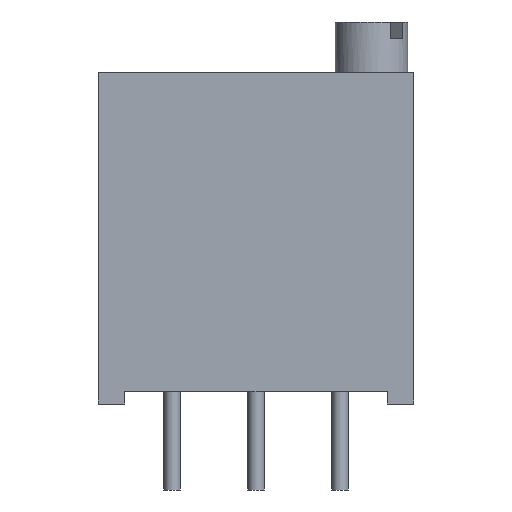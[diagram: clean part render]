
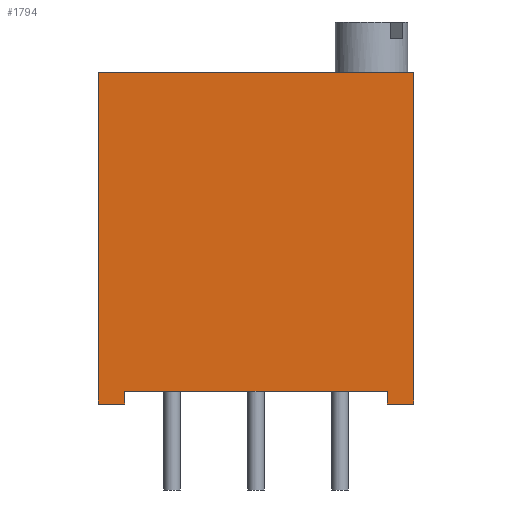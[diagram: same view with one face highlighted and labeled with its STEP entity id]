
A CAD part, front view. The second image highlights one B-rep face of the part: STEP entity #1794.
In plain terms, the highlighted planar face has unit normal (0, -1, 0).
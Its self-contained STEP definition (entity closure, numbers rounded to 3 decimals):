
#541 = PLANE('',#542);
#542 = AXIS2_PLACEMENT_3D('',#543,#544,#545);
#543 = CARTESIAN_POINT('',(-3.965,2.416,0.38));
#544 = DIRECTION('',(0.,0.,1.));
#545 = DIRECTION('',(1.,0.,0.));
#745 = VERTEX_POINT('',#746);
#746 = CARTESIAN_POINT('',(3.965,-2.415,0.38));
#760 = PLANE('',#761);
#761 = AXIS2_PLACEMENT_3D('',#762,#763,#764);
#762 = CARTESIAN_POINT('',(3.965,2.416,-0.62));
#763 = DIRECTION('',(1.,0.,0.));
#764 = DIRECTION('',(0.,0.,-1.));
#772 = EDGE_CURVE('',#745,#773,#775,.T.);
#773 = VERTEX_POINT('',#774);
#774 = CARTESIAN_POINT('',(-3.965,-2.415,0.38));
#775 = SURFACE_CURVE('',#776,(#780,#787),.PCURVE_S1.);
#776 = LINE('',#777,#778);
#777 = CARTESIAN_POINT('',(-3.965,-2.415,0.38));
#778 = VECTOR('',#779,1.);
#779 = DIRECTION('',(-1.,-0.,0.));
#780 = PCURVE('',#541,#781);
#781 = DEFINITIONAL_REPRESENTATION('',(#782),#786);
#782 = LINE('',#783,#784);
#783 = CARTESIAN_POINT('',(0.,-4.831));
#784 = VECTOR('',#785,1.);
#785 = DIRECTION('',(-1.,0.));
#786 = ( GEOMETRIC_REPRESENTATION_CONTEXT(2) 
PARAMETRIC_REPRESENTATION_CONTEXT() REPRESENTATION_CONTEXT('2D SPACE',''
  ) );
#787 = PCURVE('',#788,#793);
#788 = PLANE('',#789);
#789 = AXIS2_PLACEMENT_3D('',#790,#791,#792);
#790 = CARTESIAN_POINT('',(0.,-2.415,0.));
#791 = DIRECTION('',(0.,-1.,0.));
#792 = DIRECTION('',(0.,0.,-1.));
#793 = DEFINITIONAL_REPRESENTATION('',(#794),#798);
#794 = LINE('',#795,#796);
#795 = CARTESIAN_POINT('',(-0.38,-3.965));
#796 = VECTOR('',#797,1.);
#797 = DIRECTION('',(0.,-1.));
#798 = ( GEOMETRIC_REPRESENTATION_CONTEXT(2) 
PARAMETRIC_REPRESENTATION_CONTEXT() REPRESENTATION_CONTEXT('2D SPACE',''
  ) );
#814 = PLANE('',#815);
#815 = AXIS2_PLACEMENT_3D('',#816,#817,#818);
#816 = CARTESIAN_POINT('',(-3.965,2.416,-0.62));
#817 = DIRECTION('',(-1.,0.,0.));
#818 = DIRECTION('',(0.,0.,1.));
#1484 = PLANE('',#1485);
#1485 = AXIS2_PLACEMENT_3D('',#1486,#1487,#1488);
#1486 = CARTESIAN_POINT('',(-4.765,2.415,10.03));
#1487 = DIRECTION('',(1.,0.,0.));
#1488 = DIRECTION('',(0.,0.,-1.));
#1568 = PLANE('',#1569);
#1569 = AXIS2_PLACEMENT_3D('',#1570,#1571,#1572);
#1570 = CARTESIAN_POINT('',(-4.765,2.415,10.03));
#1571 = DIRECTION('',(0.,0.,-1.));
#1572 = DIRECTION('',(-1.,0.,0.));
#1652 = PLANE('',#1653);
#1653 = AXIS2_PLACEMENT_3D('',#1654,#1655,#1656);
#1654 = CARTESIAN_POINT('',(4.765,2.415,10.03));
#1655 = DIRECTION('',(-1.,0.,0.));
#1656 = DIRECTION('',(0.,0.,1.));
#1696 = VERTEX_POINT('',#1697);
#1697 = CARTESIAN_POINT('',(3.965,-2.415,0.));
#1711 = PLANE('',#1712);
#1712 = AXIS2_PLACEMENT_3D('',#1713,#1714,#1715);
#1713 = CARTESIAN_POINT('',(-4.765,2.415,0.));
#1714 = DIRECTION('',(0.,0.,1.));
#1715 = DIRECTION('',(1.,0.,0.));
#1723 = EDGE_CURVE('',#1696,#745,#1724,.T.);
#1724 = SURFACE_CURVE('',#1725,(#1729,#1736),.PCURVE_S1.);
#1725 = LINE('',#1726,#1727);
#1726 = CARTESIAN_POINT('',(3.965,-2.415,-0.62));
#1727 = VECTOR('',#1728,1.);
#1728 = DIRECTION('',(0.,0.,1.));
#1729 = PCURVE('',#760,#1730);
#1730 = DEFINITIONAL_REPRESENTATION('',(#1731),#1735);
#1731 = LINE('',#1732,#1733);
#1732 = CARTESIAN_POINT('',(-0.,-4.831));
#1733 = VECTOR('',#1734,1.);
#1734 = DIRECTION('',(-1.,0.));
#1735 = ( GEOMETRIC_REPRESENTATION_CONTEXT(2) 
PARAMETRIC_REPRESENTATION_CONTEXT() REPRESENTATION_CONTEXT('2D SPACE',''
  ) );
#1736 = PCURVE('',#788,#1737);
#1737 = DEFINITIONAL_REPRESENTATION('',(#1738),#1742);
#1738 = LINE('',#1739,#1740);
#1739 = CARTESIAN_POINT('',(0.62,3.965));
#1740 = VECTOR('',#1741,1.);
#1741 = DIRECTION('',(-1.,0.));
#1742 = ( GEOMETRIC_REPRESENTATION_CONTEXT(2) 
PARAMETRIC_REPRESENTATION_CONTEXT() REPRESENTATION_CONTEXT('2D SPACE',''
  ) );
#1794 = ADVANCED_FACE('',(#1795),#788,.T.);
#1795 = FACE_BOUND('',#1796,.T.);
#1796 = EDGE_LOOP('',(#1797,#1820,#1821,#1822,#1845,#1868,#1891,#1914));
#1797 = ORIENTED_EDGE('',*,*,#1798,.F.);
#1798 = EDGE_CURVE('',#773,#1799,#1801,.T.);
#1799 = VERTEX_POINT('',#1800);
#1800 = CARTESIAN_POINT('',(-3.965,-2.415,0.));
#1801 = SURFACE_CURVE('',#1802,(#1806,#1813),.PCURVE_S1.);
#1802 = LINE('',#1803,#1804);
#1803 = CARTESIAN_POINT('',(-3.965,-2.415,-0.62));
#1804 = VECTOR('',#1805,1.);
#1805 = DIRECTION('',(0.,0.,-1.));
#1806 = PCURVE('',#788,#1807);
#1807 = DEFINITIONAL_REPRESENTATION('',(#1808),#1812);
#1808 = LINE('',#1809,#1810);
#1809 = CARTESIAN_POINT('',(0.62,-3.965));
#1810 = VECTOR('',#1811,1.);
#1811 = DIRECTION('',(1.,0.));
#1812 = ( GEOMETRIC_REPRESENTATION_CONTEXT(2) 
PARAMETRIC_REPRESENTATION_CONTEXT() REPRESENTATION_CONTEXT('2D SPACE',''
  ) );
#1813 = PCURVE('',#814,#1814);
#1814 = DEFINITIONAL_REPRESENTATION('',(#1815),#1819);
#1815 = LINE('',#1816,#1817);
#1816 = CARTESIAN_POINT('',(0.,-4.831));
#1817 = VECTOR('',#1818,1.);
#1818 = DIRECTION('',(-1.,0.));
#1819 = ( GEOMETRIC_REPRESENTATION_CONTEXT(2) 
PARAMETRIC_REPRESENTATION_CONTEXT() REPRESENTATION_CONTEXT('2D SPACE',''
  ) );
#1820 = ORIENTED_EDGE('',*,*,#772,.F.);
#1821 = ORIENTED_EDGE('',*,*,#1723,.F.);
#1822 = ORIENTED_EDGE('',*,*,#1823,.F.);
#1823 = EDGE_CURVE('',#1824,#1696,#1826,.T.);
#1824 = VERTEX_POINT('',#1825);
#1825 = CARTESIAN_POINT('',(4.765,-2.415,0.));
#1826 = SURFACE_CURVE('',#1827,(#1831,#1838),.PCURVE_S1.);
#1827 = LINE('',#1828,#1829);
#1828 = CARTESIAN_POINT('',(-4.765,-2.415,0.));
#1829 = VECTOR('',#1830,1.);
#1830 = DIRECTION('',(-1.,-0.,-0.));
#1831 = PCURVE('',#788,#1832);
#1832 = DEFINITIONAL_REPRESENTATION('',(#1833),#1837);
#1833 = LINE('',#1834,#1835);
#1834 = CARTESIAN_POINT('',(-0.,-4.765));
#1835 = VECTOR('',#1836,1.);
#1836 = DIRECTION('',(0.,-1.));
#1837 = ( GEOMETRIC_REPRESENTATION_CONTEXT(2) 
PARAMETRIC_REPRESENTATION_CONTEXT() REPRESENTATION_CONTEXT('2D SPACE',''
  ) );
#1838 = PCURVE('',#1711,#1839);
#1839 = DEFINITIONAL_REPRESENTATION('',(#1840),#1844);
#1840 = LINE('',#1841,#1842);
#1841 = CARTESIAN_POINT('',(0.,-4.83));
#1842 = VECTOR('',#1843,1.);
#1843 = DIRECTION('',(-1.,0.));
#1844 = ( GEOMETRIC_REPRESENTATION_CONTEXT(2) 
PARAMETRIC_REPRESENTATION_CONTEXT() REPRESENTATION_CONTEXT('2D SPACE',''
  ) );
#1845 = ORIENTED_EDGE('',*,*,#1846,.F.);
#1846 = EDGE_CURVE('',#1847,#1824,#1849,.T.);
#1847 = VERTEX_POINT('',#1848);
#1848 = CARTESIAN_POINT('',(4.765,-2.415,10.03));
#1849 = SURFACE_CURVE('',#1850,(#1854,#1861),.PCURVE_S1.);
#1850 = LINE('',#1851,#1852);
#1851 = CARTESIAN_POINT('',(4.765,-2.415,10.03));
#1852 = VECTOR('',#1853,1.);
#1853 = DIRECTION('',(0.,0.,-1.));
#1854 = PCURVE('',#788,#1855);
#1855 = DEFINITIONAL_REPRESENTATION('',(#1856),#1860);
#1856 = LINE('',#1857,#1858);
#1857 = CARTESIAN_POINT('',(-10.03,4.765));
#1858 = VECTOR('',#1859,1.);
#1859 = DIRECTION('',(1.,0.));
#1860 = ( GEOMETRIC_REPRESENTATION_CONTEXT(2) 
PARAMETRIC_REPRESENTATION_CONTEXT() REPRESENTATION_CONTEXT('2D SPACE',''
  ) );
#1861 = PCURVE('',#1652,#1862);
#1862 = DEFINITIONAL_REPRESENTATION('',(#1863),#1867);
#1863 = LINE('',#1864,#1865);
#1864 = CARTESIAN_POINT('',(0.,-4.83));
#1865 = VECTOR('',#1866,1.);
#1866 = DIRECTION('',(-1.,0.));
#1867 = ( GEOMETRIC_REPRESENTATION_CONTEXT(2) 
PARAMETRIC_REPRESENTATION_CONTEXT() REPRESENTATION_CONTEXT('2D SPACE',''
  ) );
#1868 = ORIENTED_EDGE('',*,*,#1869,.F.);
#1869 = EDGE_CURVE('',#1870,#1847,#1872,.T.);
#1870 = VERTEX_POINT('',#1871);
#1871 = CARTESIAN_POINT('',(-4.765,-2.415,10.03));
#1872 = SURFACE_CURVE('',#1873,(#1877,#1884),.PCURVE_S1.);
#1873 = LINE('',#1874,#1875);
#1874 = CARTESIAN_POINT('',(-4.765,-2.415,10.03));
#1875 = VECTOR('',#1876,1.);
#1876 = DIRECTION('',(1.,0.,0.));
#1877 = PCURVE('',#788,#1878);
#1878 = DEFINITIONAL_REPRESENTATION('',(#1879),#1883);
#1879 = LINE('',#1880,#1881);
#1880 = CARTESIAN_POINT('',(-10.03,-4.765));
#1881 = VECTOR('',#1882,1.);
#1882 = DIRECTION('',(0.,1.));
#1883 = ( GEOMETRIC_REPRESENTATION_CONTEXT(2) 
PARAMETRIC_REPRESENTATION_CONTEXT() REPRESENTATION_CONTEXT('2D SPACE',''
  ) );
#1884 = PCURVE('',#1568,#1885);
#1885 = DEFINITIONAL_REPRESENTATION('',(#1886),#1890);
#1886 = LINE('',#1887,#1888);
#1887 = CARTESIAN_POINT('',(-0.,-4.83));
#1888 = VECTOR('',#1889,1.);
#1889 = DIRECTION('',(-1.,0.));
#1890 = ( GEOMETRIC_REPRESENTATION_CONTEXT(2) 
PARAMETRIC_REPRESENTATION_CONTEXT() REPRESENTATION_CONTEXT('2D SPACE',''
  ) );
#1891 = ORIENTED_EDGE('',*,*,#1892,.F.);
#1892 = EDGE_CURVE('',#1893,#1870,#1895,.T.);
#1893 = VERTEX_POINT('',#1894);
#1894 = CARTESIAN_POINT('',(-4.765,-2.415,0.));
#1895 = SURFACE_CURVE('',#1896,(#1900,#1907),.PCURVE_S1.);
#1896 = LINE('',#1897,#1898);
#1897 = CARTESIAN_POINT('',(-4.765,-2.415,10.03));
#1898 = VECTOR('',#1899,1.);
#1899 = DIRECTION('',(0.,0.,1.));
#1900 = PCURVE('',#788,#1901);
#1901 = DEFINITIONAL_REPRESENTATION('',(#1902),#1906);
#1902 = LINE('',#1903,#1904);
#1903 = CARTESIAN_POINT('',(-10.03,-4.765));
#1904 = VECTOR('',#1905,1.);
#1905 = DIRECTION('',(-1.,0.));
#1906 = ( GEOMETRIC_REPRESENTATION_CONTEXT(2) 
PARAMETRIC_REPRESENTATION_CONTEXT() REPRESENTATION_CONTEXT('2D SPACE',''
  ) );
#1907 = PCURVE('',#1484,#1908);
#1908 = DEFINITIONAL_REPRESENTATION('',(#1909),#1913);
#1909 = LINE('',#1910,#1911);
#1910 = CARTESIAN_POINT('',(0.,-4.83));
#1911 = VECTOR('',#1912,1.);
#1912 = DIRECTION('',(-1.,0.));
#1913 = ( GEOMETRIC_REPRESENTATION_CONTEXT(2) 
PARAMETRIC_REPRESENTATION_CONTEXT() REPRESENTATION_CONTEXT('2D SPACE',''
  ) );
#1914 = ORIENTED_EDGE('',*,*,#1915,.F.);
#1915 = EDGE_CURVE('',#1799,#1893,#1916,.T.);
#1916 = SURFACE_CURVE('',#1917,(#1921,#1928),.PCURVE_S1.);
#1917 = LINE('',#1918,#1919);
#1918 = CARTESIAN_POINT('',(-4.765,-2.415,0.));
#1919 = VECTOR('',#1920,1.);
#1920 = DIRECTION('',(-1.,-0.,-0.));
#1921 = PCURVE('',#788,#1922);
#1922 = DEFINITIONAL_REPRESENTATION('',(#1923),#1927);
#1923 = LINE('',#1924,#1925);
#1924 = CARTESIAN_POINT('',(-0.,-4.765));
#1925 = VECTOR('',#1926,1.);
#1926 = DIRECTION('',(0.,-1.));
#1927 = ( GEOMETRIC_REPRESENTATION_CONTEXT(2) 
PARAMETRIC_REPRESENTATION_CONTEXT() REPRESENTATION_CONTEXT('2D SPACE',''
  ) );
#1928 = PCURVE('',#1929,#1934);
#1929 = PLANE('',#1930);
#1930 = AXIS2_PLACEMENT_3D('',#1931,#1932,#1933);
#1931 = CARTESIAN_POINT('',(-4.765,2.415,0.));
#1932 = DIRECTION('',(0.,0.,1.));
#1933 = DIRECTION('',(1.,0.,0.));
#1934 = DEFINITIONAL_REPRESENTATION('',(#1935),#1939);
#1935 = LINE('',#1936,#1937);
#1936 = CARTESIAN_POINT('',(0.,-4.83));
#1937 = VECTOR('',#1938,1.);
#1938 = DIRECTION('',(-1.,0.));
#1939 = ( GEOMETRIC_REPRESENTATION_CONTEXT(2) 
PARAMETRIC_REPRESENTATION_CONTEXT() REPRESENTATION_CONTEXT('2D SPACE',''
  ) );
